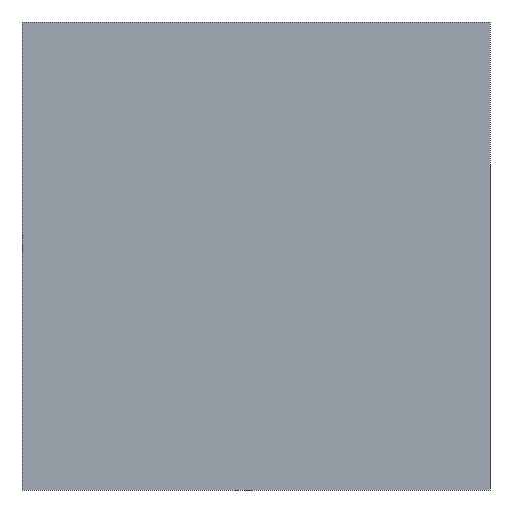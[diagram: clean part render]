
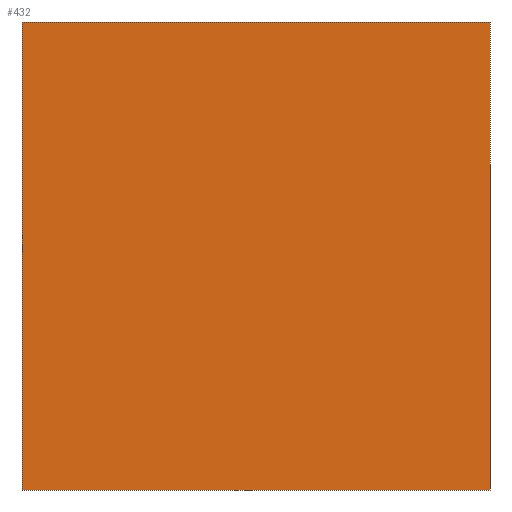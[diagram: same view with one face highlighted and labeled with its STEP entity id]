
A CAD part, front view. The second image highlights one B-rep face of the part: STEP entity #432.
In plain terms, the highlighted planar face has unit normal (0, -1, 0).
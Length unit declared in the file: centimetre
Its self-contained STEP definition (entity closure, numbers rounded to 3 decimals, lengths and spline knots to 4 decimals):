
#14 = AXIS2_PLACEMENT_3D ( 'NONE', #18, #133, #59 ) ;
#18 = CARTESIAN_POINT ( 'NONE',  ( 0., 0., 1000. ) ) ;
#38 = DIRECTION ( 'NONE',  ( 0., 0., -1. ) ) ;
#39 = ORIENTED_EDGE ( 'NONE', *, *, #246, .F. ) ;
#47 = CARTESIAN_POINT ( 'NONE',  ( 0., 0., 1000. ) ) ;
#49 = EDGE_LOOP ( 'NONE', ( #198, #39, #269, #423 ) ) ;
#51 = VECTOR ( 'NONE', #187, 100. ) ;
#59 = DIRECTION ( 'NONE',  ( 0., 0., 1. ) ) ;
#71 = VERTEX_POINT ( 'NONE', #388 ) ;
#73 = LINE ( 'NONE', #100, #93 ) ;
#75 = EDGE_CURVE ( 'NONE', #114, #71, #152, .T. ) ;
#80 = VECTOR ( 'NONE', #194, 100. ) ;
#93 = VECTOR ( 'NONE', #384, 100. ) ;
#98 = LINE ( 'NONE', #301, #51 ) ;
#100 = CARTESIAN_POINT ( 'NONE',  ( 0., 0., 1000. ) ) ;
#114 = VERTEX_POINT ( 'NONE', #243 ) ;
#133 = DIRECTION ( 'NONE',  ( 0., 1., 0. ) ) ;
#152 = LINE ( 'NONE', #47, #224 ) ;
#178 = EDGE_CURVE ( 'NONE', #114, #469, #73, .T. ) ;
#187 = DIRECTION ( 'NONE',  ( 0., 0., -1. ) ) ;
#194 = DIRECTION ( 'NONE',  ( 1., 0., 0. ) ) ;
#198 = ORIENTED_EDGE ( 'NONE', *, *, #345, .T. ) ;
#207 = PLANE ( 'NONE',  #14 ) ;
#224 = VECTOR ( 'NONE', #38, 100. ) ;
#243 = CARTESIAN_POINT ( 'NONE',  ( 0., 0., 1000. ) ) ;
#246 = EDGE_CURVE ( 'NONE', #469, #390, #98, .T. ) ;
#269 = ORIENTED_EDGE ( 'NONE', *, *, #178, .F. ) ;
#274 = LINE ( 'NONE', #475, #80 ) ;
#301 = CARTESIAN_POINT ( 'NONE',  ( 1000., 0., 1000. ) ) ;
#330 = CARTESIAN_POINT ( 'NONE',  ( 1000., 0., 1000. ) ) ;
#345 = EDGE_CURVE ( 'NONE', #71, #390, #274, .T. ) ;
#384 = DIRECTION ( 'NONE',  ( 1., 0., 0. ) ) ;
#388 = CARTESIAN_POINT ( 'NONE',  ( 0., 0., 0. ) ) ;
#390 = VERTEX_POINT ( 'NONE', #408 ) ;
#405 = FACE_OUTER_BOUND ( 'NONE', #49, .T. ) ;
#408 = CARTESIAN_POINT ( 'NONE',  ( 1000., 0., 0. ) ) ;
#423 = ORIENTED_EDGE ( 'NONE', *, *, #75, .T. ) ;
#432 = ADVANCED_FACE ( 'NONE', ( #405 ), #207, .F. ) ;
#469 = VERTEX_POINT ( 'NONE', #330 ) ;
#475 = CARTESIAN_POINT ( 'NONE',  ( 0., 0., 0. ) ) ;
